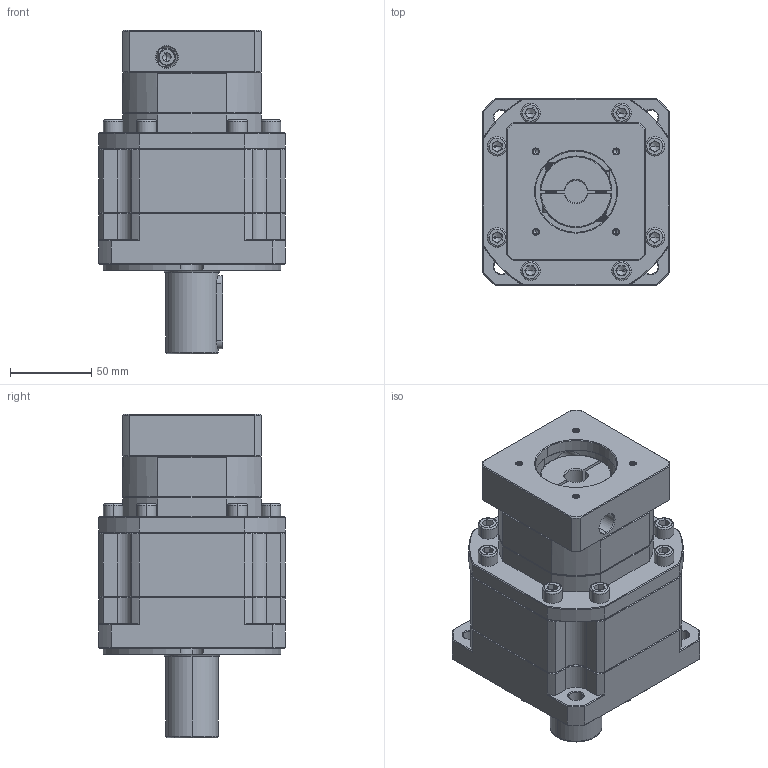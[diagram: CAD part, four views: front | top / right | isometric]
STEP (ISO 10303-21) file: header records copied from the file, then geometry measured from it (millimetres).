
FILE_DESCRIPTION (( 'STEP AP214' ), '1' );
FILE_NAME ('ZB115A-D32-L2-P2-14-50-70-M4.step', '2023-08-26T10:01:17', ( '' ), ( '' ), 'SwSTEP 2.0', 'SolidWorks 2016', '' );
FILE_SCHEMA (( 'AUTOMOTIVE_DESIGN' ));
Length unit declared in the file: millimetre
Products named in the file (1): ZB115A-D32-L2-P2-14-50-70-M4
Bounding box: 115 x 115 x 199 mm (x, y, z)
Volume: 1395636 mm3; surface area: 133665.7 mm2
Topology: 5 solids, 6 shells, 2410 faces, 6347 edges, 4039 vertices
Faces by surface type: plane 1186, bspline 442, cylinder 417, cone 365
Entity records: 126189 total; most frequent: CARTESIAN_POINT 43874, ORIENTED_EDGE 12618, DIRECTION 9939, EDGE_CURVE 6309, VERTEX_POINT 4039, VECTOR 4023, LINE 4023, AXIS2_PLACEMENT_3D 2958
